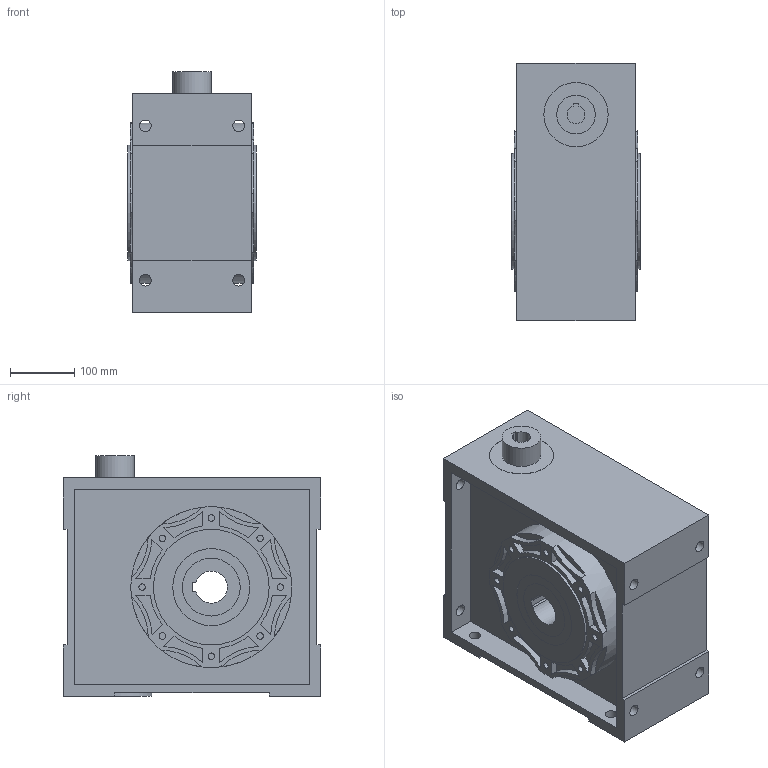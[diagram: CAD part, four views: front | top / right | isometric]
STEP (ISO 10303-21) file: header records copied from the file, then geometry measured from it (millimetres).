
FILE_DESCRIPTION( ( 'Unknown' ), '1' );
FILE_NAME( 'E:/services/configuratordownloads/customers/HYDROMEC/VSFQ/download/CF8C5D6EBEBF0D28394DF149533B72F/STEP/CF8C5D6EBEBF0D28394DF149533B72F.3d.stp', 'Unknown', ( 'Unknown' ), ( 'Unknown' ), 'PSStep 10.1', 'Unknown', ' ' );
FILE_SCHEMA( ( 'AUTOMOTIVE_DESIGN { 1 0 10303 214 1 1 1 1 }' ) );
Length unit declared in the file: millimetre
Products named in the file (1): Q158800
Bounding box: 200 x 400 x 374.6 mm (x, y, z)
Volume: 19273473.3 mm3; surface area: 815850.5 mm2
Topology: 1 solids, 1 shells, 217 faces, 523 edges, 354 vertices
Faces by surface type: plane 127, cylinder 90
Full cylindrical faces by diameter (mm): 10.106 x16, 18 x12, 60 x1, 90 x3, 100 x1, 120 x2, 180 x2, 250 x2
Entity records: 7862 total; most frequent: DIRECTION 1112, CARTESIAN_POINT 1020, ORIENTED_EDGE 932, EDGE_CURVE 466, AXIS2_PLACEMENT_3D 428, VERTEX_POINT 336, EDGE_LOOP 328, FACE_OUTER_BOUND 256
